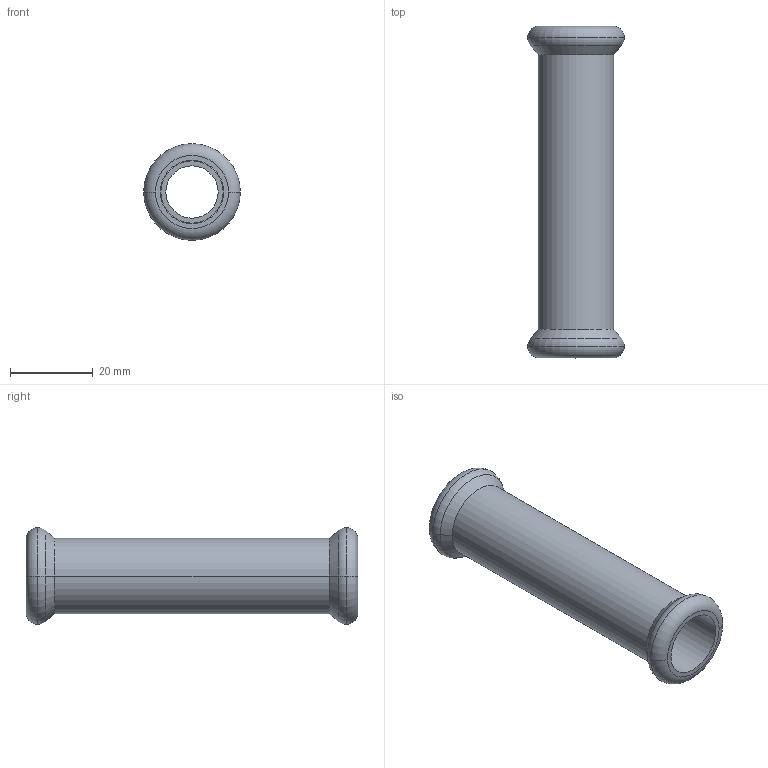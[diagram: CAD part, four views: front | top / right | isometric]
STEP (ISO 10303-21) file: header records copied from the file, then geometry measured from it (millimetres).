
FILE_DESCRIPTION(('CoCreate Modeling STEP Export'),'2;1');
FILE_NAME('C1403 15x15.stp','2014-11-07T14:03:13',(''),(''),'CoCreate Modeling STEP processor for AP214 (Solid Model)','CoCreate Modeling 17.00A 17-Jun-2010 (C) Parametric Technology GmbH','');
FILE_SCHEMA(('AUTOMOTIVE_DESIGN { 1 0 10303 214 1 1 1 1 }'));
Length unit declared in the file: millimetre
Products named in the file (2): C1403_15x15
Assembly tree (1 placements, depth 2):
  C1403_15x15
    C1403_15x15
Bounding box: 23.3 x 80 x 23.3 mm (x, y, z)
Volume: 10125.5 mm3; surface area: 8875.9 mm2
Topology: 1 solids, 1 shells, 30 faces, 62 edges, 38 vertices
Faces by surface type: cylinder 12, torus 8, plane 6, cone 4
Entity records: 691 total; most frequent: ORIENTED_EDGE 124, DIRECTION 104, CARTESIAN_POINT 98, EDGE_CURVE 62, AXIS2_PLACEMENT_3D 44, VERTEX_POINT 38, EDGE_LOOP 36, FACE_OUTER_BOUND 30
